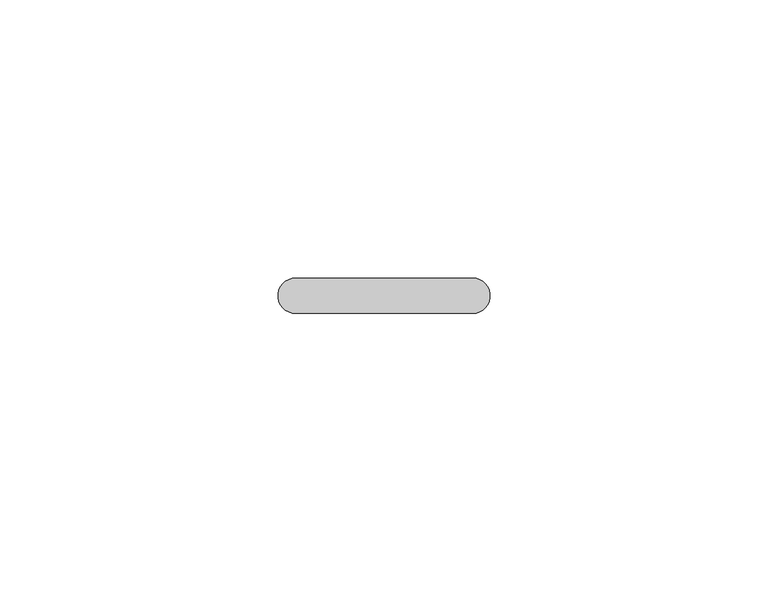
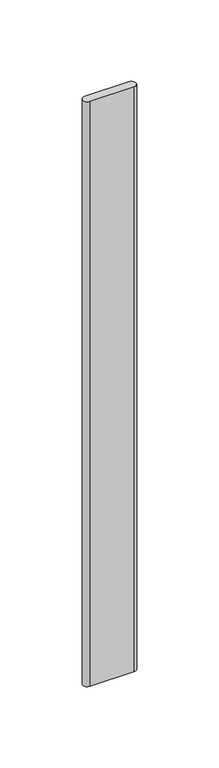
"""IFC4 building model written with IfcOpenShell, lengths in millimetres: proxy geometry, Durabond Generic Model Insulation Adhesive Flat : Durabond Generic Model Insulation Adhesive Flat."""

from ifc_helpers import new_model, si_unit, point, frame_2d, origin, origin_with_axes, place, context, project, spatial, polyline, circle_curve, trimmed, segment, composite_curve, outline, extrude, source, transform, mapped, element, save


def generic_models_a6b5edb7(model_context):
    return source(origin(), model_context, "Body", "SweptSolid", [
        extrude(outline(composite_curve([segment(trimmed(circle_curve(frame_2d((15.875, 0.0)), 3.175), [point((15.875, 3.175))], [point((15.875, -3.175))], False, "CARTESIAN"), True, "CONTINUOUS"), segment(polyline([(15.875, -3.175), (-15.875, -3.175)]), True, "CONTINUOUS"), segment(trimmed(circle_curve(frame_2d((-15.875, 0.0)), 3.175), [point((-15.875, -3.175))], [point((-15.875, 3.175))], False, "CARTESIAN"), True, "CONTINUOUS"), segment(polyline([(-15.875, 3.175), (15.875, 3.175)]), True, "CONTINUOUS")], self_intersect=False)), origin_with_axes(), (0.0, 0.0, 1.0), 444.5),
    ])


if __name__ == "__main__":
    model = new_model("IFC4")
    model_context = context("Model", 3, world=origin())
    ifc_project = project(units=[si_unit("LENGTHUNIT", "METRE", prefix="MILLI")], contexts=[model_context])
    site = spatial("IfcSite", under=ifc_project)
    building = spatial("IfcBuilding", under=site)
    placement = place(None, origin())
    generic_models_shape = generic_models_a6b5edb7(model_context)
    element("IfcBuildingElementProxy", 1, Name="Durabond Generic Model Insulation Adhesive Flat : Durabond Generic Model Insulation Adhesive Flat", ObjectType="Durabond Generic Model Insulation Adhesive Flat : Durabond Generic Model Insulation Adhesive Flat", at=placement, inside=building, context=model_context, shape_type="MappedRepresentation", body=[
        mapped(generic_models_shape, transform((0.0, 0.0, 0.0), x_axis=(1.0, 0.0, 0.0), y_axis=(0.0, 1.0, 0.0), z_axis=(0.0, 0.0, 1.0))),
    ])
    save(model, "model.ifc")
